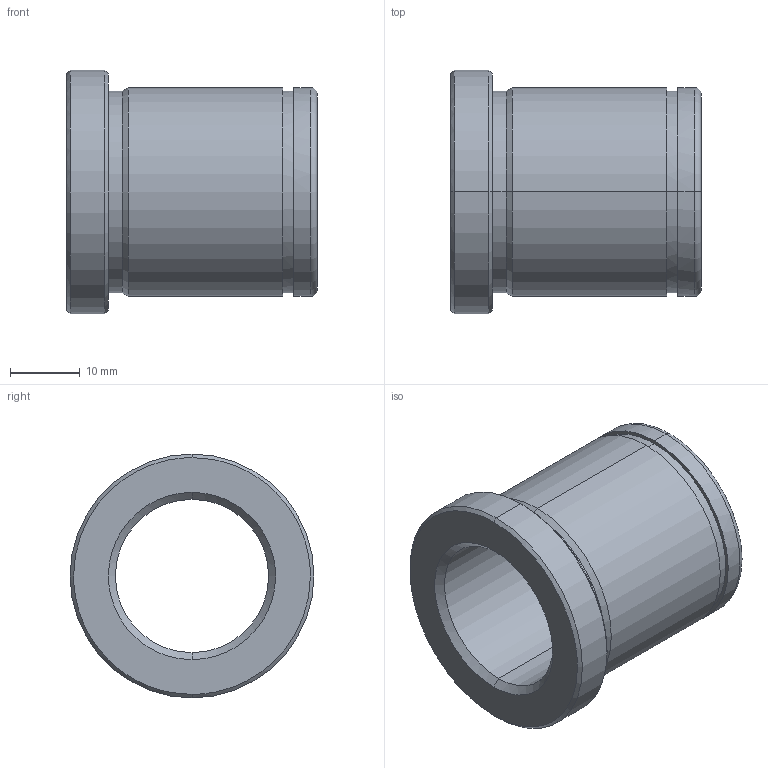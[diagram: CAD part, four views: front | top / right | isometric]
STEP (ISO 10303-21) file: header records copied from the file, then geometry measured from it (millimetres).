
FILE_DESCRIPTION(('CATIA V5 STEP Exchange'),'2;1');
FILE_NAME('C:\Users\Utente\Desktop\IO LAVORO\3D X SITO CF\X SITO\PLASTICA\553\553-22X36.stp','2021-05-25T18:12:36+00:00',('none'),('none'),'CATIA Version 5 Release 20 GA (IN-10)','CATIA V5 STEP AP203','none');
FILE_SCHEMA(('CONFIG_CONTROL_DESIGN'));
Length unit declared in the file: millimetre
Products named in the file (1): 553-22X36
Bounding box: 36 x 35 x 35 mm (x, y, z)
Volume: 12989.5 mm3; surface area: 7089.4 mm2
Topology: 1 solids, 1 shells, 29 faces, 92 edges, 68 vertices
Faces by surface type: cylinder 12, cone 8, plane 5, torus 4
Entity records: 1222 total; most frequent: CARTESIAN_POINT 368, ORIENTED_EDGE 184, DIRECTION 136, EDGE_CURVE 92, AXIS2_PLACEMENT_3D 88, VERTEX_POINT 68, CIRCLE 58, EDGE_LOOP 34
